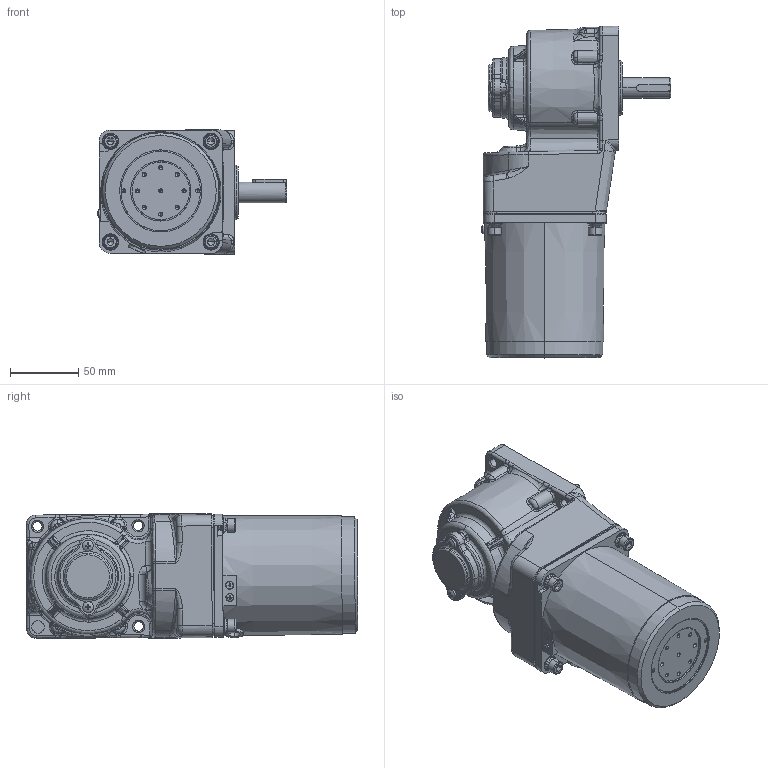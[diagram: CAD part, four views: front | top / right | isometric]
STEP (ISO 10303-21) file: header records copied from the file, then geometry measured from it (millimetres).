
FILE_DESCRIPTION (( 'STEP AP203' ), '1' );
FILE_NAME ('5IK40GU-C(5GU3RT-180RT)ÐÂ.STEP', '2022-02-24T00:15:49', ( 'PC' ), ( 'Microsoft' ), 'SwSTEP 2.0', 'SolidWorks 2014', '' );
FILE_SCHEMA (( 'CONFIG_CONTROL_DESIGN' ));
Length unit declared in the file: millimetre
Products named in the file (9): 5IK40GU-C(5GU3RC-180RC); 5IK40GU-C(5GU3RT-180RT)陔; zd-5gu-50rc-504-001m#眊极禱矗 2021-12-07 - 萵掛; 90妗陑怀堤粣; 90壔裔; ZD-5GU50RC-505-003綴傷裔; 90RT妗陑怀堤傷裔; hexagon socket head cap screws gb_GB_FASTENER_SCREWS_HSHCS M5X12-N; cross recessed pan head screws gb_GB_CROSS_SCREWS_TYPE1 M4X6-6  H type-N
Assembly tree (12 placements, depth 2):
  5IK40GU-C(5GU3RT-180RT)陔
    zd-5gu-50rc-504-001m#眊极禱矗 2021-12-07 - 萵掛
    90妗陑怀堤粣
    90壔裔
    ZD-5GU50RC-505-003綴傷裔
    90RT妗陑怀堤傷裔
    hexagon socket head cap screws gb_GB_FASTENER_SCREWS_HSHCS M5X12-N  x4
    cross recessed pan head screws gb_GB_CROSS_SCREWS_TYPE1 M4X6-6  H type-N  x2
    5IK40GU-C(5GU3RC-180RC)
Bounding box: 138.35 x 242.47 x 91.08 mm (x, y, z)
Volume: 792204.1 mm3; surface area: 171128.6 mm2
Topology: 22 solids, 32 shells, 1870 faces, 4569 edges, 2708 vertices
Faces by surface type: plane 543, bspline 453, cone 409, cylinder 368, torus 91, sphere 6
Entity records: 78007 total; most frequent: CARTESIAN_POINT 39345, ORIENTED_EDGE 8448, DIRECTION 7076, EDGE_CURVE 4225, AXIS2_PLACEMENT_3D 2825, VERTEX_POINT 2568, EDGE_LOOP 1868, ADVANCED_FACE 1771
